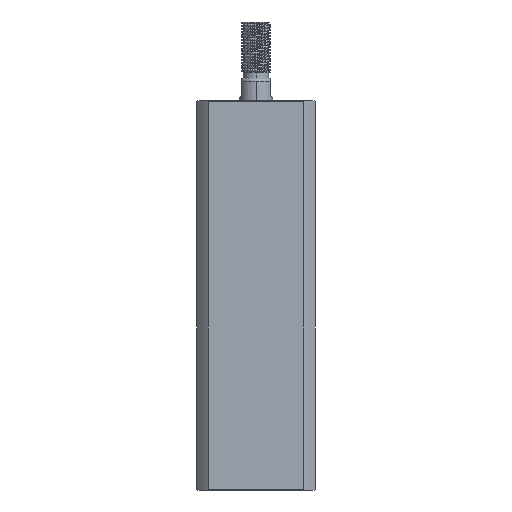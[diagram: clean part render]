
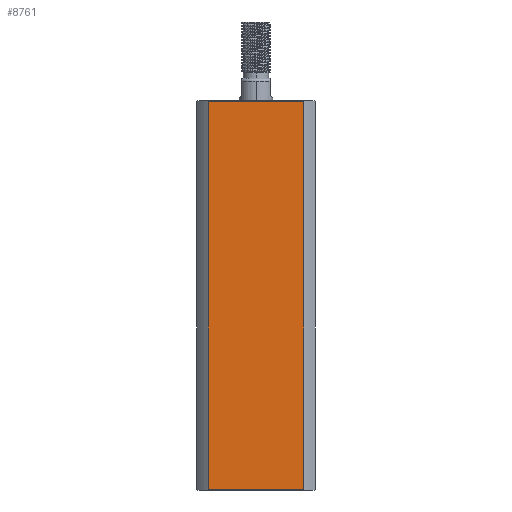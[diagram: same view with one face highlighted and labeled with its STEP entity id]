
A CAD part, left-side view. The second image highlights one B-rep face of the part: STEP entity #8761.
In plain terms, the highlighted planar face has unit normal (-1, 0, 0).
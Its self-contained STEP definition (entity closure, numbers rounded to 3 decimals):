
#260 = DIRECTION ( 'NONE',  ( 1., 0., 0. ) ) ;
#2714 = DIRECTION ( 'NONE',  ( 0., 0., -1. ) ) ;
#3330 = AXIS2_PLACEMENT_3D ( 'NONE', #4879, #260, #8387 ) ;
#3427 = CARTESIAN_POINT ( 'NONE',  ( -21., 21., 0.3 ) ) ;
#3517 = LINE ( 'NONE', #9673, #13194 ) ;
#4035 = LINE ( 'NONE', #4732, #6784 ) ;
#4254 = CARTESIAN_POINT ( 'NONE',  ( -21., -16.971, 137.7 ) ) ;
#4604 = CARTESIAN_POINT ( 'NONE',  ( -21., 21., 137.7 ) ) ;
#4732 = CARTESIAN_POINT ( 'NONE',  ( -21., 16.971, -162. ) ) ;
#4879 = CARTESIAN_POINT ( 'NONE',  ( -21., 21., 138. ) ) ;
#5344 = VERTEX_POINT ( 'NONE', #4254 ) ;
#6207 = EDGE_CURVE ( 'NONE', #14457, #7377, #12976, .T. ) ;
#6784 = VECTOR ( 'NONE', #12876, 1000. ) ;
#7377 = VERTEX_POINT ( 'NONE', #13187 ) ;
#7536 = ORIENTED_EDGE ( 'NONE', *, *, #9909, .F. ) ;
#7735 = CARTESIAN_POINT ( 'NONE',  ( -21., 16.971, 0.3 ) ) ;
#8387 = DIRECTION ( 'NONE',  ( 0., 1., 0. ) ) ;
#8761 = ADVANCED_FACE ( 'NONE', ( #13126 ), #14193, .F. ) ;
#9361 = ORIENTED_EDGE ( 'NONE', *, *, #10517, .T. ) ;
#9673 = CARTESIAN_POINT ( 'NONE',  ( -21., -16.971, -162. ) ) ;
#9901 = VECTOR ( 'NONE', #11578, 1000. ) ;
#9909 = EDGE_CURVE ( 'NONE', #14457, #10796, #4035, .T. ) ;
#10517 = EDGE_CURVE ( 'NONE', #5344, #10796, #14040, .T. ) ;
#10796 = VERTEX_POINT ( 'NONE', #13756 ) ;
#10927 = VECTOR ( 'NONE', #11560, 1000. ) ;
#11560 = DIRECTION ( 'NONE',  ( 0., 1., 0. ) ) ;
#11578 = DIRECTION ( 'NONE',  ( 0., -1., 0. ) ) ;
#12876 = DIRECTION ( 'NONE',  ( 0., 0., 1. ) ) ;
#12976 = LINE ( 'NONE', #3427, #9901 ) ;
#13126 = FACE_OUTER_BOUND ( 'NONE', #14562, .T. ) ;
#13187 = CARTESIAN_POINT ( 'NONE',  ( -21., -16.971, 0.3 ) ) ;
#13194 = VECTOR ( 'NONE', #2714, 1000. ) ;
#13359 = ORIENTED_EDGE ( 'NONE', *, *, #14233, .F. ) ;
#13756 = CARTESIAN_POINT ( 'NONE',  ( -21., 16.971, 137.7 ) ) ;
#14040 = LINE ( 'NONE', #4604, #10927 ) ;
#14193 = PLANE ( 'NONE',  #3330 ) ;
#14233 = EDGE_CURVE ( 'NONE', #5344, #7377, #3517, .T. ) ;
#14457 = VERTEX_POINT ( 'NONE', #7735 ) ;
#14562 = EDGE_LOOP ( 'NONE', ( #7536, #14584, #13359, #9361 ) ) ;
#14584 = ORIENTED_EDGE ( 'NONE', *, *, #6207, .T. ) ;
